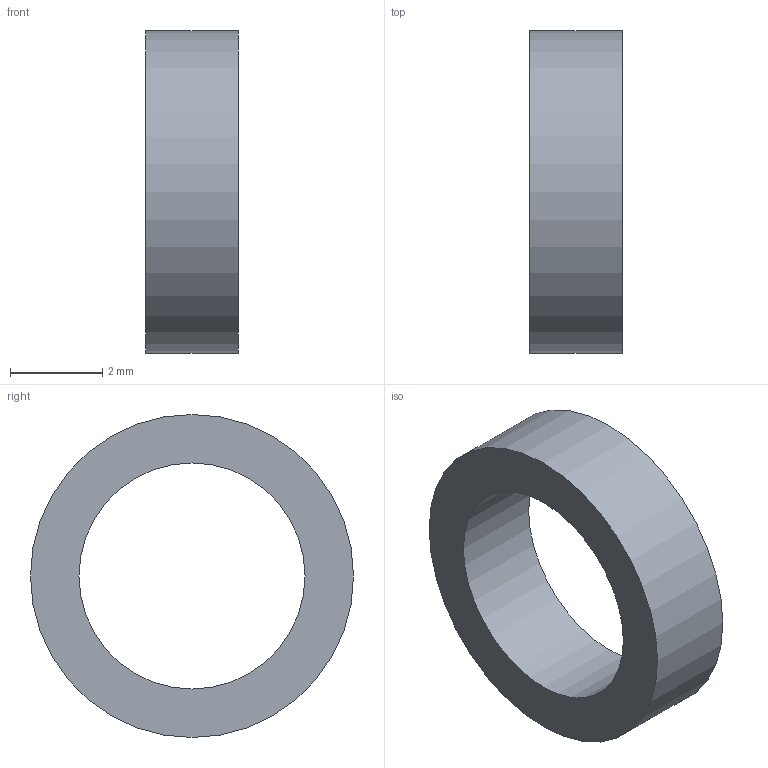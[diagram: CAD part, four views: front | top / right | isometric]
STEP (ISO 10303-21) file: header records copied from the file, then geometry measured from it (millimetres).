
FILE_DESCRIPTION(('Open CASCADE Model'),'2;1');
FILE_NAME('Open CASCADE Shape Model','2026-09-09T10:24:07',('Author'),( 'Open CASCADE'),'Open CASCADE STEP processor 7.8','Open CASCADE 7.8' ,'Unknown');
FILE_SCHEMA(('AUTOMOTIVE_DESIGN { 1 0 10303 214 1 1 1 1 }'));
Length unit declared in the file: millimetre
Products named in the file (1): Open CASCADE STEP translator 7.8 9
Bounding box: 2 x 7 x 7 mm (x, y, z)
Volume: 39.3 mm3; surface area: 114 mm2
Topology: 1 solids, 1 shells, 4 faces, 6 edges, 4 vertices
Faces by surface type: cylinder 2, plane 2
Full cylindrical faces by diameter (mm): 4.9 x1, 7 x1
Entity records: 186 total; most frequent: DIRECTION 32, CARTESIAN_POINT 27, ORIENTED_EDGE 12, PCURVE 12, DEFINITIONAL_REPRESENTATION 12, LINE 10, VECTOR 10, AXIS2_PLACEMENT_3D 9
